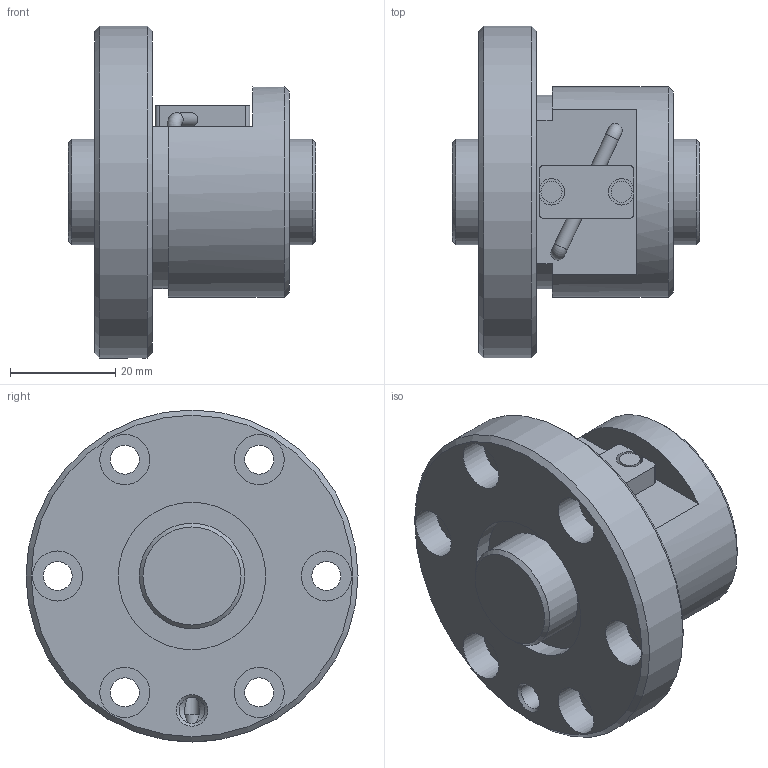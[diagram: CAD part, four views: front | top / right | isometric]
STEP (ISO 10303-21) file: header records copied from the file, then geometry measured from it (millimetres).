
FILE_DESCRIPTION(/* description */ ('STEP AP203'),/* implementation_level */ '2;1');
FILE_NAME(/* name */ 'BNF2004V-2.5RRG1+47LC0_000_rev',/* time_stamp */ '2024-08-06T07:28:00+02:00',/* author */ ('License CC BY-ND 4.0'),/* organization */ ('CADENAS'),/* preprocessor_version */ 'ST-DEVELOPER v19.3',/* originating_system */ 'PARTsolutions',/* authorisation */ ' ');
FILE_SCHEMA (('CONFIG_CONTROL_DESIGN'));
Length unit declared in the file: millimetre
Products named in the file (3): BNF2004V-2.5RRG1+47LC0_000_rev; BNF 2004-2.5RR000 Shaft; BNF 2004-2.5RR Nut
Assembly tree (2 placements, depth 2):
  BNF2004V-2.5RRG1+47LC0_000_rev
    BNF 2004-2.5RR000 Shaft
    BNF 2004-2.5RR Nut
Bounding box: 47 x 63 x 63 mm (x, y, z)
Volume: 61678 mm3; surface area: 19179.9 mm2
Topology: 2 solids, 2 shells, 70 faces, 158 edges, 103 vertices
Faces by surface type: cylinder 33, plane 27, cone 8, torus 2
Full cylindrical faces by diameter (mm): 2.665 x2, 2.75 x2, 4 x2, 4.917 x1, 5.5 x6, 9.5 x6, 20 x2, 28 x2, 40 x1, 63 x1
Entity records: 1859 total; most frequent: CARTESIAN_POINT 325, DIRECTION 324, ORIENTED_EDGE 226, AXIS2_PLACEMENT_3D 146, EDGE_LOOP 136, FACE_BOUND 136, EDGE_CURVE 113, VERTEX_POINT 93
